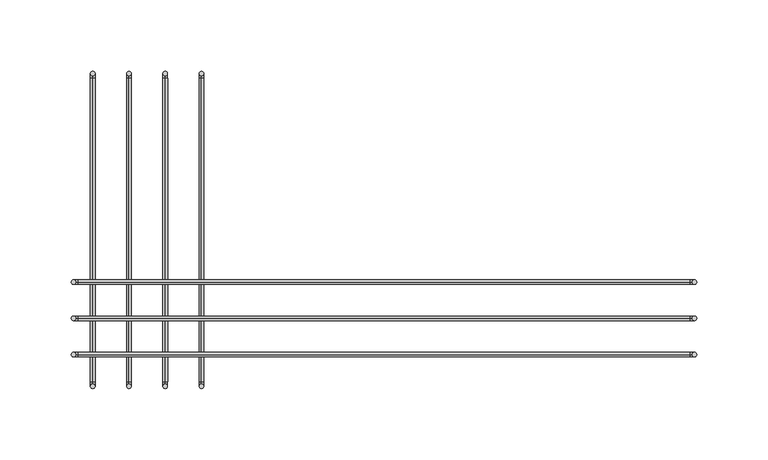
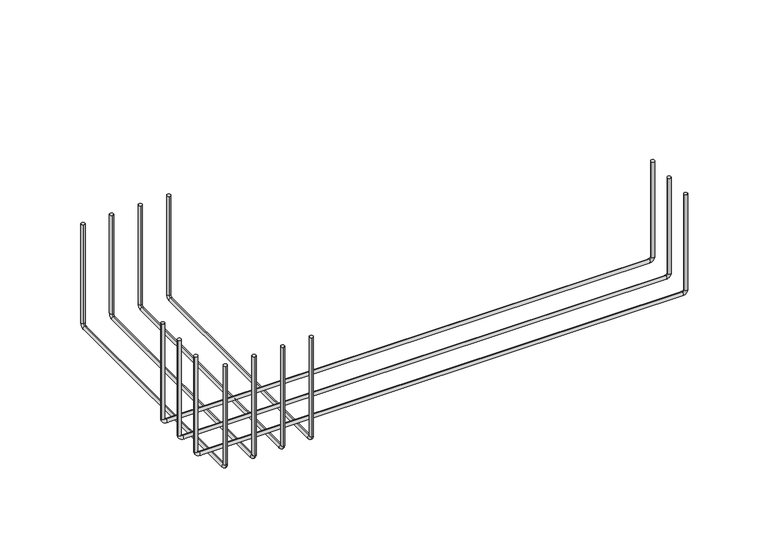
"""IFC4 building model written with IfcOpenShell, lengths in millimetres: furniture geometry."""

from ifc_helpers import new_model, si_unit, point, frame, origin, place, context, project, spatial, circle_curve, ellipse_curve, trimmed, source, transform, mapped, element, save
from ifc_brep_helpers import plane_surface, cylinder_surface, revolved_surface, advanced_brep


def furniture_57f02d6f(model_context):
    return source(origin(), model_context, "Body", "AdvancedBrep", [
        advanced_brep(
        [(-127.88392, -152.3273724, 1249.3942846), (-127.88392, -149.1523724, 1249.3942846), (-127.88392, 69.9226276, 1249.3942846), (-127.88392, 66.7476276, 1249.3942846), (-127.88392, -152.3273724, 1156.525988), (-127.88392, -149.1523724, 1156.525988), (-127.88392, -147.5648724, 1154.938488), (-127.88392, -147.5648724, 1151.763488), (-127.88392, 65.1601276, 1151.763488), (-127.88392, 65.1601276, 1154.938488), (-127.88392, 66.7476276, 1156.525988), (-127.88392, 69.9226276, 1156.525988)],
        [
            (0, 1, circle_curve(frame((-127.88392, -150.7398724, 1249.3942846), z_axis=(0.0, 0.0, 1.0), x_axis=(1.0, 0.0, 0.0)), 1.5875)),
            (1, 0, circle_curve(frame((-127.88392, -150.7398724, 1249.3942846), z_axis=(0.0, 0.0, 1.0), x_axis=(1.0, 0.0, 0.0)), 1.5875)),
            (2, 3, circle_curve(frame((-127.88392, 68.3351276, 1249.3942846), z_axis=(0.0, 0.0, 1.0), x_axis=(1.0, 0.0, 0.0)), 1.5875)),
            (3, 2, circle_curve(frame((-127.88392, 68.3351276, 1249.3942846), z_axis=(0.0, 0.0, 1.0), x_axis=(1.0, 0.0, 0.0)), 1.5875)),
            (0, 4),
            (4, 5, circle_curve(frame((-127.88392, -150.7398724, 1156.525988), z_axis=(0.0, 0.0, 1.0), x_axis=(1.0, 0.0, 0.0)), 1.5875)),
            (5, 1),
            (5, 4, circle_curve(frame((-127.88392, -150.7398724, 1156.525988), z_axis=(0.0, 0.0, 1.0), x_axis=(1.0, 0.0, 0.0)), 1.5875)),
            (6, 7, circle_curve(frame((-127.88392, -147.5648724, 1153.350988), z_axis=(0.0, 1.0, 0.0), x_axis=(1.0, 0.0, 0.0)), 1.5875)),
            (7, 8),
            (8, 9, circle_curve(frame((-127.88392, 65.1601276, 1153.350988), z_axis=(0.0, -1.0, 0.0), x_axis=(1.0, 0.0, 0.0)), 1.5875)),
            (9, 6),
            (7, 6, circle_curve(frame((-127.88392, -147.5648724, 1153.350988), z_axis=(0.0, 1.0, 0.0), x_axis=(1.0, 0.0, 0.0)), 1.5875)),
            (9, 8, circle_curve(frame((-127.88392, 65.1601276, 1153.350988), z_axis=(0.0, -1.0, 0.0), x_axis=(1.0, 0.0, 0.0)), 1.5875)),
            (10, 11, circle_curve(frame((-127.88392, 68.3351276, 1156.525988), z_axis=(0.0, 0.0, 1.0), x_axis=(1.0, 0.0, 0.0)), 1.5875)),
            (11, 2),
            (3, 10),
            (11, 10, circle_curve(frame((-127.88392, 68.3351276, 1156.525988), z_axis=(0.0, 0.0, 1.0), x_axis=(1.0, 0.0, 0.0)), 1.5875)),
            (6, 5, circle_curve(frame((-127.88392, -147.5648724, 1156.525988), z_axis=(-1.0, 0.0, 0.0), x_axis=(0.0, -1.0, 0.0)), 1.5875)),
            (4, 7, circle_curve(frame((-127.88392, -147.5648724, 1156.525988), z_axis=(1.0, 0.0, 0.0), x_axis=(0.0, -1.0, 0.0)), 4.7625)),
            (10, 9, circle_curve(frame((-127.88392, 65.1601276, 1156.525988), z_axis=(-1.0, 0.0, 0.0), x_axis=(0.0, 0.0, -1.0)), 1.5875)),
            (8, 11, circle_curve(frame((-127.88392, 65.1601276, 1156.525988), z_axis=(1.0, 0.0, 0.0), x_axis=(0.0, 0.0, -1.0)), 4.7625)),
        ],
        [
            plane_surface(frame((-127.88392, -152.3273724, 1249.3942846), z_axis=(0.0, 0.0, 1.0), x_axis=(1.0, 0.0, 0.0))),
            plane_surface(frame((-127.88392, 69.9226276, 1249.3942846), z_axis=(0.0, 0.0, 1.0), x_axis=(1.0, 0.0, 0.0))),
            cylinder_surface(frame((-127.88392, -150.7398724, 1249.3942846), z_axis=(0.0, 0.0, 1.0), x_axis=(1.0, 0.0, 0.0)), 1.5875),
            cylinder_surface(frame((-127.88392, -147.5648724, 1153.350988), z_axis=(0.0, -1.0, 0.0), x_axis=(1.0, 0.0, 0.0)), 1.5875),
            cylinder_surface(frame((-127.88392, 68.3351276, 1156.525988), z_axis=(0.0, 0.0, -1.0), x_axis=(1.0, 0.0, 0.0)), 1.5875),
            revolved_surface(trimmed(ellipse_curve(frame((-127.88392, -150.7398724, 1156.525988), z_axis=(0.0, 0.0, 1.0), x_axis=(1.0, 0.0, 0.0)), 1.5875, 1.5875), [point((-127.88392, -152.3273724, 1156.525988))], [point((-127.88392, -149.1523724, 1156.525988))], True, "CARTESIAN"), (-127.88392, -147.5648724, 1156.525988), (1.0, 0.0, 0.0)),
            revolved_surface(trimmed(ellipse_curve(frame((-127.88392, -150.7398724, 1156.525988), z_axis=(0.0, 0.0, 1.0), x_axis=(1.0, 0.0, 0.0)), 1.5875, 1.5875), [point((-127.88392, -149.1523724, 1156.525988))], [point((-127.88392, -152.3273724, 1156.525988))], True, "CARTESIAN"), (-127.88392, -147.5648724, 1156.525988), (1.0, 0.0, 0.0)),
            revolved_surface(trimmed(ellipse_curve(frame((-127.88392, 65.1601276, 1153.350988), z_axis=(0.0, -1.0, 0.0), x_axis=(1.0, 0.0, 0.0)), 1.5875, 1.5875), [point((-127.88392, 65.1601276, 1151.763488))], [point((-127.88392, 65.1601276, 1154.938488))], True, "CARTESIAN"), (-127.88392, 65.1601276, 1156.525988), (1.0, 0.0, 0.0)),
            revolved_surface(trimmed(ellipse_curve(frame((-127.88392, 65.1601276, 1153.350988), z_axis=(0.0, -1.0, 0.0), x_axis=(1.0, 0.0, 0.0)), 1.5875, 1.5875), [point((-127.88392, 65.1601276, 1154.938488))], [point((-127.88392, 65.1601276, 1151.763488))], True, "CARTESIAN"), (-127.88392, 65.1601276, 1156.525988), (1.0, 0.0, 0.0)),
        ],
        [
            (0, [[1, 2]]),
            (1, [[3, 4]]),
            (2, [[-1, 5, 6, 7]]),
            (2, [[-2, -7, 8, -5]]),
            (3, [[9, 10, 11, 12]]),
            (3, [[13, -12, 14, -10]]),
            (4, [[15, 16, -4, 17]]),
            (4, [[18, -17, -3, -16]]),
            (5, [[19, -6, 20, -9]]),
            (6, [[-20, -8, -19, -13]]),
            (7, [[21, -11, 22, -15]]),
            (8, [[-22, -14, -21, -18]]),
        ],
    ),
        advanced_brep(
        [(-153.28392, -152.3273724, 1249.3942846), (-153.28392, -149.1523724, 1249.3942846), (-153.28392, 69.9226276, 1249.3942846), (-153.28392, 66.7476276, 1249.3942846), (-153.28392, -152.3273724, 1156.525988), (-153.28392, -149.1523724, 1156.525988), (-153.28392, -147.5648724, 1154.938488), (-153.28392, -147.5648724, 1151.763488), (-153.28392, 65.1601276, 1151.763488), (-153.28392, 65.1601276, 1154.938488), (-153.28392, 66.7476276, 1156.525988), (-153.28392, 69.9226276, 1156.525988)],
        [
            (0, 1, circle_curve(frame((-153.28392, -150.7398724, 1249.3942846), z_axis=(0.0, 0.0, 1.0), x_axis=(1.0, 0.0, 0.0)), 1.5875)),
            (1, 0, circle_curve(frame((-153.28392, -150.7398724, 1249.3942846), z_axis=(0.0, 0.0, 1.0), x_axis=(1.0, 0.0, 0.0)), 1.5875)),
            (2, 3, circle_curve(frame((-153.28392, 68.3351276, 1249.3942846), z_axis=(0.0, 0.0, 1.0), x_axis=(1.0, 0.0, 0.0)), 1.5875)),
            (3, 2, circle_curve(frame((-153.28392, 68.3351276, 1249.3942846), z_axis=(0.0, 0.0, 1.0), x_axis=(1.0, 0.0, 0.0)), 1.5875)),
            (0, 4),
            (4, 5, circle_curve(frame((-153.28392, -150.7398724, 1156.525988), z_axis=(0.0, 0.0, 1.0), x_axis=(1.0, 0.0, 0.0)), 1.5875)),
            (5, 1),
            (5, 4, circle_curve(frame((-153.28392, -150.7398724, 1156.525988), z_axis=(0.0, 0.0, 1.0), x_axis=(1.0, 0.0, 0.0)), 1.5875)),
            (6, 7, circle_curve(frame((-153.28392, -147.5648724, 1153.350988), z_axis=(0.0, 1.0, 0.0), x_axis=(1.0, 0.0, 0.0)), 1.5875)),
            (7, 8),
            (8, 9, circle_curve(frame((-153.28392, 65.1601276, 1153.350988), z_axis=(0.0, -1.0, 0.0), x_axis=(1.0, 0.0, 0.0)), 1.5875)),
            (9, 6),
            (7, 6, circle_curve(frame((-153.28392, -147.5648724, 1153.350988), z_axis=(0.0, 1.0, 0.0), x_axis=(1.0, 0.0, 0.0)), 1.5875)),
            (9, 8, circle_curve(frame((-153.28392, 65.1601276, 1153.350988), z_axis=(0.0, -1.0, 0.0), x_axis=(1.0, 0.0, 0.0)), 1.5875)),
            (10, 11, circle_curve(frame((-153.28392, 68.3351276, 1156.525988), z_axis=(0.0, 0.0, 1.0), x_axis=(1.0, 0.0, 0.0)), 1.5875)),
            (11, 2),
            (3, 10),
            (11, 10, circle_curve(frame((-153.28392, 68.3351276, 1156.525988), z_axis=(0.0, 0.0, 1.0), x_axis=(1.0, 0.0, 0.0)), 1.5875)),
            (6, 5, circle_curve(frame((-153.28392, -147.5648724, 1156.525988), z_axis=(-1.0, 0.0, 0.0), x_axis=(0.0, -1.0, 0.0)), 1.5875)),
            (4, 7, circle_curve(frame((-153.28392, -147.5648724, 1156.525988), z_axis=(1.0, 0.0, 0.0), x_axis=(0.0, -1.0, 0.0)), 4.7625)),
            (10, 9, circle_curve(frame((-153.28392, 65.1601276, 1156.525988), z_axis=(-1.0, 0.0, 0.0), x_axis=(0.0, 0.0, -1.0)), 1.5875)),
            (8, 11, circle_curve(frame((-153.28392, 65.1601276, 1156.525988), z_axis=(1.0, 0.0, 0.0), x_axis=(0.0, 0.0, -1.0)), 4.7625)),
        ],
        [
            plane_surface(frame((-153.28392, -152.3273724, 1249.3942846), z_axis=(0.0, 0.0, 1.0), x_axis=(1.0, 0.0, 0.0))),
            plane_surface(frame((-153.28392, 69.9226276, 1249.3942846), z_axis=(0.0, 0.0, 1.0), x_axis=(1.0, 0.0, 0.0))),
            cylinder_surface(frame((-153.28392, -150.7398724, 1249.3942846), z_axis=(0.0, 0.0, 1.0), x_axis=(1.0, 0.0, 0.0)), 1.5875),
            cylinder_surface(frame((-153.28392, -147.5648724, 1153.350988), z_axis=(0.0, -1.0, 0.0), x_axis=(1.0, 0.0, 0.0)), 1.5875),
            cylinder_surface(frame((-153.28392, 68.3351276, 1156.525988), z_axis=(0.0, 0.0, -1.0), x_axis=(1.0, 0.0, 0.0)), 1.5875),
            revolved_surface(trimmed(ellipse_curve(frame((-153.28392, -150.7398724, 1156.525988), z_axis=(0.0, 0.0, 1.0), x_axis=(1.0, 0.0, 0.0)), 1.5875, 1.5875), [point((-153.28392, -152.3273724, 1156.525988))], [point((-153.28392, -149.1523724, 1156.525988))], True, "CARTESIAN"), (-153.28392, -147.5648724, 1156.525988), (1.0, 0.0, 0.0)),
            revolved_surface(trimmed(ellipse_curve(frame((-153.28392, -150.7398724, 1156.525988), z_axis=(0.0, 0.0, 1.0), x_axis=(1.0, 0.0, 0.0)), 1.5875, 1.5875), [point((-153.28392, -149.1523724, 1156.525988))], [point((-153.28392, -152.3273724, 1156.525988))], True, "CARTESIAN"), (-153.28392, -147.5648724, 1156.525988), (1.0, 0.0, 0.0)),
            revolved_surface(trimmed(ellipse_curve(frame((-153.28392, 65.1601276, 1153.350988), z_axis=(0.0, -1.0, 0.0), x_axis=(1.0, 0.0, 0.0)), 1.5875, 1.5875), [point((-153.28392, 65.1601276, 1151.763488))], [point((-153.28392, 65.1601276, 1154.938488))], True, "CARTESIAN"), (-153.28392, 65.1601276, 1156.525988), (1.0, 0.0, 0.0)),
            revolved_surface(trimmed(ellipse_curve(frame((-153.28392, 65.1601276, 1153.350988), z_axis=(0.0, -1.0, 0.0), x_axis=(1.0, 0.0, 0.0)), 1.5875, 1.5875), [point((-153.28392, 65.1601276, 1154.938488))], [point((-153.28392, 65.1601276, 1151.763488))], True, "CARTESIAN"), (-153.28392, 65.1601276, 1156.525988), (1.0, 0.0, 0.0)),
        ],
        [
            (0, [[1, 2]]),
            (1, [[3, 4]]),
            (2, [[-1, 5, 6, 7]]),
            (2, [[-2, -7, 8, -5]]),
            (3, [[9, 10, 11, 12]]),
            (3, [[13, -12, 14, -10]]),
            (4, [[15, 16, -4, 17]]),
            (4, [[18, -17, -3, -16]]),
            (5, [[19, -6, 20, -9]]),
            (6, [[-20, -8, -19, -13]]),
            (7, [[21, -11, 22, -15]]),
            (8, [[-22, -14, -21, -18]]),
        ],
    ),
        advanced_brep(
        [(219.075, -77.7148724, 1249.3942846), (215.9, -77.7148724, 1249.3942846), (-219.075, -77.7148724, 1249.3942846), (-215.9, -77.7148724, 1249.3942846), (219.075, -77.7148724, 1159.700988), (215.9, -77.7148724, 1159.700988), (214.3125, -77.7148724, 1158.113488), (214.3125, -77.7148724, 1154.938488), (-214.3125, -77.7148724, 1154.938488), (-214.3125, -77.7148724, 1158.113488), (-215.9, -77.7148724, 1159.700988), (-219.075, -77.7148724, 1159.700988)],
        [
            (0, 1, circle_curve(frame((217.4875, -77.7148724, 1249.3942846), z_axis=(0.0, 0.0, 1.0), x_axis=(0.0, 1.0, 0.0)), 1.5875)),
            (1, 0, circle_curve(frame((217.4875, -77.7148724, 1249.3942846), z_axis=(0.0, 0.0, 1.0), x_axis=(0.0, 1.0, 0.0)), 1.5875)),
            (2, 3, circle_curve(frame((-217.4875, -77.7148724, 1249.3942846), z_axis=(0.0, 0.0, 1.0), x_axis=(0.0, 1.0, 0.0)), 1.5875)),
            (3, 2, circle_curve(frame((-217.4875, -77.7148724, 1249.3942846), z_axis=(0.0, 0.0, 1.0), x_axis=(0.0, 1.0, 0.0)), 1.5875)),
            (0, 4),
            (4, 5, circle_curve(frame((217.4875, -77.7148724, 1159.700988), z_axis=(0.0, 0.0, 1.0), x_axis=(0.0, 1.0, 0.0)), 1.5875)),
            (5, 1),
            (5, 4, circle_curve(frame((217.4875, -77.7148724, 1159.700988), z_axis=(0.0, 0.0, 1.0), x_axis=(0.0, 1.0, 0.0)), 1.5875)),
            (6, 7, circle_curve(frame((214.3125, -77.7148724, 1156.525988), z_axis=(-1.0, 0.0, 0.0), x_axis=(0.0, 1.0, 0.0)), 1.5875)),
            (7, 8),
            (8, 9, circle_curve(frame((-214.3125, -77.7148724, 1156.525988), z_axis=(1.0, 0.0, 0.0), x_axis=(0.0, 1.0, 0.0)), 1.5875)),
            (9, 6),
            (7, 6, circle_curve(frame((214.3125, -77.7148724, 1156.525988), z_axis=(-1.0, 0.0, 0.0), x_axis=(0.0, 1.0, 0.0)), 1.5875)),
            (9, 8, circle_curve(frame((-214.3125, -77.7148724, 1156.525988), z_axis=(1.0, 0.0, 0.0), x_axis=(0.0, 1.0, 0.0)), 1.5875)),
            (10, 11, circle_curve(frame((-217.4875, -77.7148724, 1159.700988), z_axis=(0.0, 0.0, 1.0), x_axis=(0.0, 1.0, 0.0)), 1.5875)),
            (11, 2),
            (3, 10),
            (11, 10, circle_curve(frame((-217.4875, -77.7148724, 1159.700988), z_axis=(0.0, 0.0, 1.0), x_axis=(0.0, 1.0, 0.0)), 1.5875)),
            (6, 5, circle_curve(frame((214.3125, -77.7148724, 1159.700988), z_axis=(0.0, -1.0, 0.0), x_axis=(1.0, 0.0, 0.0)), 1.5875)),
            (4, 7, circle_curve(frame((214.3125, -77.7148724, 1159.700988), z_axis=(0.0, 1.0, 0.0), x_axis=(1.0, 0.0, 0.0)), 4.7625)),
            (10, 9, circle_curve(frame((-214.3125, -77.7148724, 1159.700988), z_axis=(0.0, -1.0, 0.0), x_axis=(0.0, 0.0, -1.0)), 1.5875)),
            (8, 11, circle_curve(frame((-214.3125, -77.7148724, 1159.700988), z_axis=(0.0, 1.0, 0.0), x_axis=(0.0, 0.0, -1.0)), 4.7625)),
        ],
        [
            plane_surface(frame((219.075, -77.7148724, 1249.3942846), z_axis=(0.0, 0.0, 1.0), x_axis=(0.0, 1.0, 0.0))),
            plane_surface(frame((-219.075, -77.7148724, 1249.3942846), z_axis=(0.0, 0.0, 1.0), x_axis=(0.0, 1.0, 0.0))),
            cylinder_surface(frame((217.4875, -77.7148724, 1249.3942846), z_axis=(0.0, 0.0, 1.0), x_axis=(0.0, 1.0, 0.0)), 1.5875),
            cylinder_surface(frame((214.3125, -77.7148724, 1156.525988), z_axis=(1.0, 0.0, 0.0), x_axis=(0.0, 1.0, 0.0)), 1.5875),
            cylinder_surface(frame((-217.4875, -77.7148724, 1159.700988), z_axis=(0.0, 0.0, -1.0), x_axis=(0.0, 1.0, 0.0)), 1.5875),
            revolved_surface(trimmed(ellipse_curve(frame((217.4875, -77.7148724, 1159.700988), z_axis=(0.0, 0.0, 1.0), x_axis=(0.0, 1.0, 0.0)), 1.5875, 1.5875), [point((219.075, -77.7148724, 1159.700988))], [point((215.9, -77.7148724, 1159.700988))], True, "CARTESIAN"), (214.3125, -77.7148724, 1159.700988), (0.0, 1.0, 0.0)),
            revolved_surface(trimmed(ellipse_curve(frame((217.4875, -77.7148724, 1159.700988), z_axis=(0.0, 0.0, 1.0), x_axis=(0.0, 1.0, 0.0)), 1.5875, 1.5875), [point((215.9, -77.7148724, 1159.700988))], [point((219.075, -77.7148724, 1159.700988))], True, "CARTESIAN"), (214.3125, -77.7148724, 1159.700988), (0.0, 1.0, 0.0)),
            revolved_surface(trimmed(ellipse_curve(frame((-214.3125, -77.7148724, 1156.525988), z_axis=(1.0, 0.0, 0.0), x_axis=(0.0, 1.0, 0.0)), 1.5875, 1.5875), [point((-214.3125, -77.7148724, 1154.938488))], [point((-214.3125, -77.7148724, 1158.113488))], True, "CARTESIAN"), (-214.3125, -77.7148724, 1159.700988), (0.0, 1.0, 0.0)),
            revolved_surface(trimmed(ellipse_curve(frame((-214.3125, -77.7148724, 1156.525988), z_axis=(1.0, 0.0, 0.0), x_axis=(0.0, 1.0, 0.0)), 1.5875, 1.5875), [point((-214.3125, -77.7148724, 1158.113488))], [point((-214.3125, -77.7148724, 1154.938488))], True, "CARTESIAN"), (-214.3125, -77.7148724, 1159.700988), (0.0, 1.0, 0.0)),
        ],
        [
            (0, [[1, 2]]),
            (1, [[3, 4]]),
            (2, [[-1, 5, 6, 7]]),
            (2, [[-2, -7, 8, -5]]),
            (3, [[9, 10, 11, 12]]),
            (3, [[13, -12, 14, -10]]),
            (4, [[15, 16, -4, 17]]),
            (4, [[18, -17, -3, -16]]),
            (5, [[19, -6, 20, -9]]),
            (6, [[-20, -8, -19, -13]]),
            (7, [[21, -11, 22, -15]]),
            (8, [[-22, -14, -21, -18]]),
        ],
    ),
        advanced_brep(
        [(219.075, -103.1148724, 1249.3942846), (215.9, -103.1148724, 1249.3942846), (-219.075, -103.1148724, 1249.3942846), (-215.9, -103.1148724, 1249.3942846), (219.075, -103.1148724, 1159.700988), (215.9, -103.1148724, 1159.700988), (214.3125, -103.1148724, 1158.113488), (214.3125, -103.1148724, 1154.938488), (-214.3125, -103.1148724, 1154.938488), (-214.3125, -103.1148724, 1158.113488), (-215.9, -103.1148724, 1159.700988), (-219.075, -103.1148724, 1159.700988)],
        [
            (0, 1, circle_curve(frame((217.4875, -103.1148724, 1249.3942846), z_axis=(0.0, 0.0, 1.0), x_axis=(0.0, 1.0, 0.0)), 1.5875)),
            (1, 0, circle_curve(frame((217.4875, -103.1148724, 1249.3942846), z_axis=(0.0, 0.0, 1.0), x_axis=(0.0, 1.0, 0.0)), 1.5875)),
            (2, 3, circle_curve(frame((-217.4875, -103.1148724, 1249.3942846), z_axis=(0.0, 0.0, 1.0), x_axis=(0.0, 1.0, 0.0)), 1.5875)),
            (3, 2, circle_curve(frame((-217.4875, -103.1148724, 1249.3942846), z_axis=(0.0, 0.0, 1.0), x_axis=(0.0, 1.0, 0.0)), 1.5875)),
            (0, 4),
            (4, 5, circle_curve(frame((217.4875, -103.1148724, 1159.700988), z_axis=(0.0, 0.0, 1.0), x_axis=(0.0, 1.0, 0.0)), 1.5875)),
            (5, 1),
            (5, 4, circle_curve(frame((217.4875, -103.1148724, 1159.700988), z_axis=(0.0, 0.0, 1.0), x_axis=(0.0, 1.0, 0.0)), 1.5875)),
            (6, 7, circle_curve(frame((214.3125, -103.1148724, 1156.525988), z_axis=(-1.0, 0.0, 0.0), x_axis=(0.0, 1.0, 0.0)), 1.5875)),
            (7, 8),
            (8, 9, circle_curve(frame((-214.3125, -103.1148724, 1156.525988), z_axis=(1.0, 0.0, 0.0), x_axis=(0.0, 1.0, 0.0)), 1.5875)),
            (9, 6),
            (7, 6, circle_curve(frame((214.3125, -103.1148724, 1156.525988), z_axis=(-1.0, 0.0, 0.0), x_axis=(0.0, 1.0, 0.0)), 1.5875)),
            (9, 8, circle_curve(frame((-214.3125, -103.1148724, 1156.525988), z_axis=(1.0, 0.0, 0.0), x_axis=(0.0, 1.0, 0.0)), 1.5875)),
            (10, 11, circle_curve(frame((-217.4875, -103.1148724, 1159.700988), z_axis=(0.0, 0.0, 1.0), x_axis=(0.0, 1.0, 0.0)), 1.5875)),
            (11, 2),
            (3, 10),
            (11, 10, circle_curve(frame((-217.4875, -103.1148724, 1159.700988), z_axis=(0.0, 0.0, 1.0), x_axis=(0.0, 1.0, 0.0)), 1.5875)),
            (6, 5, circle_curve(frame((214.3125, -103.1148724, 1159.700988), z_axis=(0.0, -1.0, 0.0), x_axis=(1.0, 0.0, 0.0)), 1.5875)),
            (4, 7, circle_curve(frame((214.3125, -103.1148724, 1159.700988), z_axis=(0.0, 1.0, 0.0), x_axis=(1.0, 0.0, 0.0)), 4.7625)),
            (10, 9, circle_curve(frame((-214.3125, -103.1148724, 1159.700988), z_axis=(0.0, -1.0, 0.0), x_axis=(0.0, 0.0, -1.0)), 1.5875)),
            (8, 11, circle_curve(frame((-214.3125, -103.1148724, 1159.700988), z_axis=(0.0, 1.0, 0.0), x_axis=(0.0, 0.0, -1.0)), 4.7625)),
        ],
        [
            plane_surface(frame((219.075, -103.1148724, 1249.3942846), z_axis=(0.0, 0.0, 1.0), x_axis=(0.0, 1.0, 0.0))),
            plane_surface(frame((-219.075, -103.1148724, 1249.3942846), z_axis=(0.0, 0.0, 1.0), x_axis=(0.0, 1.0, 0.0))),
            cylinder_surface(frame((217.4875, -103.1148724, 1249.3942846), z_axis=(0.0, 0.0, 1.0), x_axis=(0.0, 1.0, 0.0)), 1.5875),
            cylinder_surface(frame((214.3125, -103.1148724, 1156.525988), z_axis=(1.0, 0.0, 0.0), x_axis=(0.0, 1.0, 0.0)), 1.5875),
            cylinder_surface(frame((-217.4875, -103.1148724, 1159.700988), z_axis=(0.0, 0.0, -1.0), x_axis=(0.0, 1.0, 0.0)), 1.5875),
            revolved_surface(trimmed(ellipse_curve(frame((217.4875, -103.1148724, 1159.700988), z_axis=(0.0, 0.0, 1.0), x_axis=(0.0, 1.0, 0.0)), 1.5875, 1.5875), [point((219.075, -103.1148724, 1159.700988))], [point((215.9, -103.1148724, 1159.700988))], True, "CARTESIAN"), (214.3125, -103.1148724, 1159.700988), (0.0, 1.0, 0.0)),
            revolved_surface(trimmed(ellipse_curve(frame((217.4875, -103.1148724, 1159.700988), z_axis=(0.0, 0.0, 1.0), x_axis=(0.0, 1.0, 0.0)), 1.5875, 1.5875), [point((215.9, -103.1148724, 1159.700988))], [point((219.075, -103.1148724, 1159.700988))], True, "CARTESIAN"), (214.3125, -103.1148724, 1159.700988), (0.0, 1.0, 0.0)),
            revolved_surface(trimmed(ellipse_curve(frame((-214.3125, -103.1148724, 1156.525988), z_axis=(1.0, 0.0, 0.0), x_axis=(0.0, 1.0, 0.0)), 1.5875, 1.5875), [point((-214.3125, -103.1148724, 1154.938488))], [point((-214.3125, -103.1148724, 1158.113488))], True, "CARTESIAN"), (-214.3125, -103.1148724, 1159.700988), (0.0, 1.0, 0.0)),
            revolved_surface(trimmed(ellipse_curve(frame((-214.3125, -103.1148724, 1156.525988), z_axis=(1.0, 0.0, 0.0), x_axis=(0.0, 1.0, 0.0)), 1.5875, 1.5875), [point((-214.3125, -103.1148724, 1158.113488))], [point((-214.3125, -103.1148724, 1154.938488))], True, "CARTESIAN"), (-214.3125, -103.1148724, 1159.700988), (0.0, 1.0, 0.0)),
        ],
        [
            (0, [[1, 2]]),
            (1, [[3, 4]]),
            (2, [[-1, 5, 6, 7]]),
            (2, [[-2, -7, 8, -5]]),
            (3, [[9, 10, 11, 12]]),
            (3, [[13, -12, 14, -10]]),
            (4, [[15, 16, -4, 17]]),
            (4, [[18, -17, -3, -16]]),
            (5, [[19, -6, 20, -9]]),
            (6, [[-20, -8, -19, -13]]),
            (7, [[21, -11, 22, -15]]),
            (8, [[-22, -14, -21, -18]]),
        ],
    ),
        advanced_brep(
        [(219.075, -128.5148724, 1249.3942846), (215.9, -128.5148724, 1249.3942846), (-219.075, -128.5148724, 1249.3942846), (-215.9, -128.5148724, 1249.3942846), (219.075, -128.5148724, 1159.700988), (215.9, -128.5148724, 1159.700988), (214.3125, -128.5148724, 1158.113488), (214.3125, -128.5148724, 1154.938488), (-214.3125, -128.5148724, 1154.938488), (-214.3125, -128.5148724, 1158.113488), (-215.9, -128.5148724, 1159.700988), (-219.075, -128.5148724, 1159.700988)],
        [
            (0, 1, circle_curve(frame((217.4875, -128.5148724, 1249.3942846), z_axis=(0.0, 0.0, 1.0), x_axis=(0.0, 1.0, 0.0)), 1.5875)),
            (1, 0, circle_curve(frame((217.4875, -128.5148724, 1249.3942846), z_axis=(0.0, 0.0, 1.0), x_axis=(0.0, 1.0, 0.0)), 1.5875)),
            (2, 3, circle_curve(frame((-217.4875, -128.5148724, 1249.3942846), z_axis=(0.0, 0.0, 1.0), x_axis=(0.0, 1.0, 0.0)), 1.5875)),
            (3, 2, circle_curve(frame((-217.4875, -128.5148724, 1249.3942846), z_axis=(0.0, 0.0, 1.0), x_axis=(0.0, 1.0, 0.0)), 1.5875)),
            (0, 4),
            (4, 5, circle_curve(frame((217.4875, -128.5148724, 1159.700988), z_axis=(0.0, 0.0, 1.0), x_axis=(0.0, 1.0, 0.0)), 1.5875)),
            (5, 1),
            (5, 4, circle_curve(frame((217.4875, -128.5148724, 1159.700988), z_axis=(0.0, 0.0, 1.0), x_axis=(0.0, 1.0, 0.0)), 1.5875)),
            (6, 7, circle_curve(frame((214.3125, -128.5148724, 1156.525988), z_axis=(-1.0, 0.0, 0.0), x_axis=(0.0, 1.0, 0.0)), 1.5875)),
            (7, 8),
            (8, 9, circle_curve(frame((-214.3125, -128.5148724, 1156.525988), z_axis=(1.0, 0.0, 0.0), x_axis=(0.0, 1.0, 0.0)), 1.5875)),
            (9, 6),
            (7, 6, circle_curve(frame((214.3125, -128.5148724, 1156.525988), z_axis=(-1.0, 0.0, 0.0), x_axis=(0.0, 1.0, 0.0)), 1.5875)),
            (9, 8, circle_curve(frame((-214.3125, -128.5148724, 1156.525988), z_axis=(1.0, 0.0, 0.0), x_axis=(0.0, 1.0, 0.0)), 1.5875)),
            (10, 11, circle_curve(frame((-217.4875, -128.5148724, 1159.700988), z_axis=(0.0, 0.0, 1.0), x_axis=(0.0, 1.0, 0.0)), 1.5875)),
            (11, 2),
            (3, 10),
            (11, 10, circle_curve(frame((-217.4875, -128.5148724, 1159.700988), z_axis=(0.0, 0.0, 1.0), x_axis=(0.0, 1.0, 0.0)), 1.5875)),
            (6, 5, circle_curve(frame((214.3125, -128.5148724, 1159.700988), z_axis=(0.0, -1.0, 0.0), x_axis=(1.0, 0.0, 0.0)), 1.5875)),
            (4, 7, circle_curve(frame((214.3125, -128.5148724, 1159.700988), z_axis=(0.0, 1.0, 0.0), x_axis=(1.0, 0.0, 0.0)), 4.7625)),
            (10, 9, circle_curve(frame((-214.3125, -128.5148724, 1159.700988), z_axis=(0.0, -1.0, 0.0), x_axis=(0.0, 0.0, -1.0)), 1.5875)),
            (8, 11, circle_curve(frame((-214.3125, -128.5148724, 1159.700988), z_axis=(0.0, 1.0, 0.0), x_axis=(0.0, 0.0, -1.0)), 4.7625)),
        ],
        [
            plane_surface(frame((219.075, -128.5148724, 1249.3942846), z_axis=(0.0, 0.0, 1.0), x_axis=(0.0, 1.0, 0.0))),
            plane_surface(frame((-219.075, -128.5148724, 1249.3942846), z_axis=(0.0, 0.0, 1.0), x_axis=(0.0, 1.0, 0.0))),
            cylinder_surface(frame((217.4875, -128.5148724, 1249.3942846), z_axis=(0.0, 0.0, 1.0), x_axis=(0.0, 1.0, 0.0)), 1.5875),
            cylinder_surface(frame((214.3125, -128.5148724, 1156.525988), z_axis=(1.0, 0.0, 0.0), x_axis=(0.0, 1.0, 0.0)), 1.5875),
            cylinder_surface(frame((-217.4875, -128.5148724, 1159.700988), z_axis=(0.0, 0.0, -1.0), x_axis=(0.0, 1.0, 0.0)), 1.5875),
            revolved_surface(trimmed(ellipse_curve(frame((217.4875, -128.5148724, 1159.700988), z_axis=(0.0, 0.0, 1.0), x_axis=(0.0, 1.0, 0.0)), 1.5875, 1.5875), [point((219.075, -128.5148724, 1159.700988))], [point((215.9, -128.5148724, 1159.700988))], True, "CARTESIAN"), (214.3125, -128.5148724, 1159.700988), (0.0, 1.0, 0.0)),
            revolved_surface(trimmed(ellipse_curve(frame((217.4875, -128.5148724, 1159.700988), z_axis=(0.0, 0.0, 1.0), x_axis=(0.0, 1.0, 0.0)), 1.5875, 1.5875), [point((215.9, -128.5148724, 1159.700988))], [point((219.075, -128.5148724, 1159.700988))], True, "CARTESIAN"), (214.3125, -128.5148724, 1159.700988), (0.0, 1.0, 0.0)),
            revolved_surface(trimmed(ellipse_curve(frame((-214.3125, -128.5148724, 1156.525988), z_axis=(1.0, 0.0, 0.0), x_axis=(0.0, 1.0, 0.0)), 1.5875, 1.5875), [point((-214.3125, -128.5148724, 1154.938488))], [point((-214.3125, -128.5148724, 1158.113488))], True, "CARTESIAN"), (-214.3125, -128.5148724, 1159.700988), (0.0, 1.0, 0.0)),
            revolved_surface(trimmed(ellipse_curve(frame((-214.3125, -128.5148724, 1156.525988), z_axis=(1.0, 0.0, 0.0), x_axis=(0.0, 1.0, 0.0)), 1.5875, 1.5875), [point((-214.3125, -128.5148724, 1158.113488))], [point((-214.3125, -128.5148724, 1154.938488))], True, "CARTESIAN"), (-214.3125, -128.5148724, 1159.700988), (0.0, 1.0, 0.0)),
        ],
        [
            (0, [[1, 2]]),
            (1, [[3, 4]]),
            (2, [[-1, 5, 6, 7]]),
            (2, [[-2, -7, 8, -5]]),
            (3, [[9, 10, 11, 12]]),
            (3, [[13, -12, 14, -10]]),
            (4, [[15, 16, -4, 17]]),
            (4, [[18, -17, -3, -16]]),
            (5, [[19, -6, 20, -9]]),
            (6, [[-20, -8, -19, -13]]),
            (7, [[21, -11, 22, -15]]),
            (8, [[-22, -14, -21, -18]]),
        ],
    ),
        advanced_brep(
        [(-178.68392, -152.3273724, 1249.3942846), (-178.68392, -149.1523724, 1249.3942846), (-178.68392, 69.9226276, 1249.3942846), (-178.68392, 66.7476276, 1249.3942846), (-178.68392, -152.3273724, 1156.525988), (-178.68392, -149.1523724, 1156.525988), (-178.68392, -147.5648724, 1154.938488), (-178.68392, -147.5648724, 1151.763488), (-178.68392, 65.1601276, 1151.763488), (-178.68392, 65.1601276, 1154.938488), (-178.68392, 66.7476276, 1156.525988), (-178.68392, 69.9226276, 1156.525988)],
        [
            (0, 1, circle_curve(frame((-178.68392, -150.7398724, 1249.3942846), z_axis=(0.0, 0.0, 1.0), x_axis=(1.0, 0.0, 0.0)), 1.5875)),
            (1, 0, circle_curve(frame((-178.68392, -150.7398724, 1249.3942846), z_axis=(0.0, 0.0, 1.0), x_axis=(1.0, 0.0, 0.0)), 1.5875)),
            (2, 3, circle_curve(frame((-178.68392, 68.3351276, 1249.3942846), z_axis=(0.0, 0.0, 1.0), x_axis=(1.0, 0.0, 0.0)), 1.5875)),
            (3, 2, circle_curve(frame((-178.68392, 68.3351276, 1249.3942846), z_axis=(0.0, 0.0, 1.0), x_axis=(1.0, 0.0, 0.0)), 1.5875)),
            (0, 4),
            (4, 5, circle_curve(frame((-178.68392, -150.7398724, 1156.525988), z_axis=(0.0, 0.0, 1.0), x_axis=(1.0, 0.0, 0.0)), 1.5875)),
            (5, 1),
            (5, 4, circle_curve(frame((-178.68392, -150.7398724, 1156.525988), z_axis=(0.0, 0.0, 1.0), x_axis=(1.0, 0.0, 0.0)), 1.5875)),
            (6, 7, circle_curve(frame((-178.68392, -147.5648724, 1153.350988), z_axis=(0.0, 1.0, 0.0), x_axis=(1.0, 0.0, 0.0)), 1.5875)),
            (7, 8),
            (8, 9, circle_curve(frame((-178.68392, 65.1601276, 1153.350988), z_axis=(0.0, -1.0, 0.0), x_axis=(1.0, 0.0, 0.0)), 1.5875)),
            (9, 6),
            (7, 6, circle_curve(frame((-178.68392, -147.5648724, 1153.350988), z_axis=(0.0, 1.0, 0.0), x_axis=(1.0, 0.0, 0.0)), 1.5875)),
            (9, 8, circle_curve(frame((-178.68392, 65.1601276, 1153.350988), z_axis=(0.0, -1.0, 0.0), x_axis=(1.0, 0.0, 0.0)), 1.5875)),
            (10, 11, circle_curve(frame((-178.68392, 68.3351276, 1156.525988), z_axis=(0.0, 0.0, 1.0), x_axis=(1.0, 0.0, 0.0)), 1.5875)),
            (11, 2),
            (3, 10),
            (11, 10, circle_curve(frame((-178.68392, 68.3351276, 1156.525988), z_axis=(0.0, 0.0, 1.0), x_axis=(1.0, 0.0, 0.0)), 1.5875)),
            (6, 5, circle_curve(frame((-178.68392, -147.5648724, 1156.525988), z_axis=(-1.0, 0.0, 0.0), x_axis=(0.0, -1.0, 0.0)), 1.5875)),
            (4, 7, circle_curve(frame((-178.68392, -147.5648724, 1156.525988), z_axis=(1.0, 0.0, 0.0), x_axis=(0.0, -1.0, 0.0)), 4.7625)),
            (10, 9, circle_curve(frame((-178.68392, 65.1601276, 1156.525988), z_axis=(-1.0, 0.0, 0.0), x_axis=(0.0, 0.0, -1.0)), 1.5875)),
            (8, 11, circle_curve(frame((-178.68392, 65.1601276, 1156.525988), z_axis=(1.0, 0.0, 0.0), x_axis=(0.0, 0.0, -1.0)), 4.7625)),
        ],
        [
            plane_surface(frame((-178.68392, -152.3273724, 1249.3942846), z_axis=(0.0, 0.0, 1.0), x_axis=(1.0, 0.0, 0.0))),
            plane_surface(frame((-178.68392, 69.9226276, 1249.3942846), z_axis=(0.0, 0.0, 1.0), x_axis=(1.0, 0.0, 0.0))),
            cylinder_surface(frame((-178.68392, -150.7398724, 1249.3942846), z_axis=(0.0, 0.0, 1.0), x_axis=(1.0, 0.0, 0.0)), 1.5875),
            cylinder_surface(frame((-178.68392, -147.5648724, 1153.350988), z_axis=(0.0, -1.0, 0.0), x_axis=(1.0, 0.0, 0.0)), 1.5875),
            cylinder_surface(frame((-178.68392, 68.3351276, 1156.525988), z_axis=(0.0, 0.0, -1.0), x_axis=(1.0, 0.0, 0.0)), 1.5875),
            revolved_surface(trimmed(ellipse_curve(frame((-178.68392, -150.7398724, 1156.525988), z_axis=(0.0, 0.0, 1.0), x_axis=(1.0, 0.0, 0.0)), 1.5875, 1.5875), [point((-178.68392, -152.3273724, 1156.525988))], [point((-178.68392, -149.1523724, 1156.525988))], True, "CARTESIAN"), (-178.68392, -147.5648724, 1156.525988), (1.0, 0.0, 0.0)),
            revolved_surface(trimmed(ellipse_curve(frame((-178.68392, -150.7398724, 1156.525988), z_axis=(0.0, 0.0, 1.0), x_axis=(1.0, 0.0, 0.0)), 1.5875, 1.5875), [point((-178.68392, -149.1523724, 1156.525988))], [point((-178.68392, -152.3273724, 1156.525988))], True, "CARTESIAN"), (-178.68392, -147.5648724, 1156.525988), (1.0, 0.0, 0.0)),
            revolved_surface(trimmed(ellipse_curve(frame((-178.68392, 65.1601276, 1153.350988), z_axis=(0.0, -1.0, 0.0), x_axis=(1.0, 0.0, 0.0)), 1.5875, 1.5875), [point((-178.68392, 65.1601276, 1151.763488))], [point((-178.68392, 65.1601276, 1154.938488))], True, "CARTESIAN"), (-178.68392, 65.1601276, 1156.525988), (1.0, 0.0, 0.0)),
            revolved_surface(trimmed(ellipse_curve(frame((-178.68392, 65.1601276, 1153.350988), z_axis=(0.0, -1.0, 0.0), x_axis=(1.0, 0.0, 0.0)), 1.5875, 1.5875), [point((-178.68392, 65.1601276, 1154.938488))], [point((-178.68392, 65.1601276, 1151.763488))], True, "CARTESIAN"), (-178.68392, 65.1601276, 1156.525988), (1.0, 0.0, 0.0)),
        ],
        [
            (0, [[1, 2]]),
            (1, [[3, 4]]),
            (2, [[-1, 5, 6, 7]]),
            (2, [[-2, -7, 8, -5]]),
            (3, [[9, 10, 11, 12]]),
            (3, [[13, -12, 14, -10]]),
            (4, [[15, 16, -4, 17]]),
            (4, [[18, -17, -3, -16]]),
            (5, [[19, -6, 20, -9]]),
            (6, [[-20, -8, -19, -13]]),
            (7, [[21, -11, 22, -15]]),
            (8, [[-22, -14, -21, -18]]),
        ],
    ),
        advanced_brep(
        [(-204.08392, -152.3273724, 1249.3942846), (-204.08392, -149.1523724, 1249.3942846), (-204.08392, 69.9226276, 1249.3942846), (-204.08392, 66.7476276, 1249.3942846), (-204.08392, -152.3273724, 1156.525988), (-204.08392, -149.1523724, 1156.525988), (-204.08392, -147.5648724, 1154.938488), (-204.08392, -147.5648724, 1151.763488), (-204.08392, 65.1601276, 1151.763488), (-204.08392, 65.1601276, 1154.938488), (-204.08392, 66.7476276, 1156.525988), (-204.08392, 69.9226276, 1156.525988)],
        [
            (0, 1, circle_curve(frame((-204.08392, -150.7398724, 1249.3942846), z_axis=(0.0, 0.0, 1.0), x_axis=(1.0, 0.0, 0.0)), 1.5875)),
            (1, 0, circle_curve(frame((-204.08392, -150.7398724, 1249.3942846), z_axis=(0.0, 0.0, 1.0), x_axis=(1.0, 0.0, 0.0)), 1.5875)),
            (2, 3, circle_curve(frame((-204.08392, 68.3351276, 1249.3942846), z_axis=(0.0, 0.0, 1.0), x_axis=(1.0, 0.0, 0.0)), 1.5875)),
            (3, 2, circle_curve(frame((-204.08392, 68.3351276, 1249.3942846), z_axis=(0.0, 0.0, 1.0), x_axis=(1.0, 0.0, 0.0)), 1.5875)),
            (0, 4),
            (4, 5, circle_curve(frame((-204.08392, -150.7398724, 1156.525988), z_axis=(0.0, 0.0, 1.0), x_axis=(1.0, 0.0, 0.0)), 1.5875)),
            (5, 1),
            (5, 4, circle_curve(frame((-204.08392, -150.7398724, 1156.525988), z_axis=(0.0, 0.0, 1.0), x_axis=(1.0, 0.0, 0.0)), 1.5875)),
            (6, 7, circle_curve(frame((-204.08392, -147.5648724, 1153.350988), z_axis=(0.0, 1.0, 0.0), x_axis=(1.0, 0.0, 0.0)), 1.5875)),
            (7, 8),
            (8, 9, circle_curve(frame((-204.08392, 65.1601276, 1153.350988), z_axis=(0.0, -1.0, 0.0), x_axis=(1.0, 0.0, 0.0)), 1.5875)),
            (9, 6),
            (7, 6, circle_curve(frame((-204.08392, -147.5648724, 1153.350988), z_axis=(0.0, 1.0, 0.0), x_axis=(1.0, 0.0, 0.0)), 1.5875)),
            (9, 8, circle_curve(frame((-204.08392, 65.1601276, 1153.350988), z_axis=(0.0, -1.0, 0.0), x_axis=(1.0, 0.0, 0.0)), 1.5875)),
            (10, 11, circle_curve(frame((-204.08392, 68.3351276, 1156.525988), z_axis=(0.0, 0.0, 1.0), x_axis=(1.0, 0.0, 0.0)), 1.5875)),
            (11, 2),
            (3, 10),
            (11, 10, circle_curve(frame((-204.08392, 68.3351276, 1156.525988), z_axis=(0.0, 0.0, 1.0), x_axis=(1.0, 0.0, 0.0)), 1.5875)),
            (6, 5, circle_curve(frame((-204.08392, -147.5648724, 1156.525988), z_axis=(-1.0, 0.0, 0.0), x_axis=(0.0, -1.0, 0.0)), 1.5875)),
            (4, 7, circle_curve(frame((-204.08392, -147.5648724, 1156.525988), z_axis=(1.0, 0.0, 0.0), x_axis=(0.0, -1.0, 0.0)), 4.7625)),
            (10, 9, circle_curve(frame((-204.08392, 65.1601276, 1156.525988), z_axis=(-1.0, 0.0, 0.0), x_axis=(0.0, 0.0, -1.0)), 1.5875)),
            (8, 11, circle_curve(frame((-204.08392, 65.1601276, 1156.525988), z_axis=(1.0, 0.0, 0.0), x_axis=(0.0, 0.0, -1.0)), 4.7625)),
        ],
        [
            plane_surface(frame((-204.08392, -152.3273724, 1249.3942846), z_axis=(0.0, 0.0, 1.0), x_axis=(1.0, 0.0, 0.0))),
            plane_surface(frame((-204.08392, 69.9226276, 1249.3942846), z_axis=(0.0, 0.0, 1.0), x_axis=(1.0, 0.0, 0.0))),
            cylinder_surface(frame((-204.08392, -150.7398724, 1249.3942846), z_axis=(0.0, 0.0, 1.0), x_axis=(1.0, 0.0, 0.0)), 1.5875),
            cylinder_surface(frame((-204.08392, -147.5648724, 1153.350988), z_axis=(0.0, -1.0, 0.0), x_axis=(1.0, 0.0, 0.0)), 1.5875),
            cylinder_surface(frame((-204.08392, 68.3351276, 1156.525988), z_axis=(0.0, 0.0, -1.0), x_axis=(1.0, 0.0, 0.0)), 1.5875),
            revolved_surface(trimmed(ellipse_curve(frame((-204.08392, -150.7398724, 1156.525988), z_axis=(0.0, 0.0, 1.0), x_axis=(1.0, 0.0, 0.0)), 1.5875, 1.5875), [point((-204.08392, -152.3273724, 1156.525988))], [point((-204.08392, -149.1523724, 1156.525988))], True, "CARTESIAN"), (-204.08392, -147.5648724, 1156.525988), (1.0, 0.0, 0.0)),
            revolved_surface(trimmed(ellipse_curve(frame((-204.08392, -150.7398724, 1156.525988), z_axis=(0.0, 0.0, 1.0), x_axis=(1.0, 0.0, 0.0)), 1.5875, 1.5875), [point((-204.08392, -149.1523724, 1156.525988))], [point((-204.08392, -152.3273724, 1156.525988))], True, "CARTESIAN"), (-204.08392, -147.5648724, 1156.525988), (1.0, 0.0, 0.0)),
            revolved_surface(trimmed(ellipse_curve(frame((-204.08392, 65.1601276, 1153.350988), z_axis=(0.0, -1.0, 0.0), x_axis=(1.0, 0.0, 0.0)), 1.5875, 1.5875), [point((-204.08392, 65.1601276, 1151.763488))], [point((-204.08392, 65.1601276, 1154.938488))], True, "CARTESIAN"), (-204.08392, 65.1601276, 1156.525988), (1.0, 0.0, 0.0)),
            revolved_surface(trimmed(ellipse_curve(frame((-204.08392, 65.1601276, 1153.350988), z_axis=(0.0, -1.0, 0.0), x_axis=(1.0, 0.0, 0.0)), 1.5875, 1.5875), [point((-204.08392, 65.1601276, 1154.938488))], [point((-204.08392, 65.1601276, 1151.763488))], True, "CARTESIAN"), (-204.08392, 65.1601276, 1156.525988), (1.0, 0.0, 0.0)),
        ],
        [
            (0, [[1, 2]]),
            (1, [[3, 4]]),
            (2, [[-1, 5, 6, 7]]),
            (2, [[-2, -7, 8, -5]]),
            (3, [[9, 10, 11, 12]]),
            (3, [[13, -12, 14, -10]]),
            (4, [[15, 16, -4, 17]]),
            (4, [[18, -17, -3, -16]]),
            (5, [[19, -6, 20, -9]]),
            (6, [[-20, -8, -19, -13]]),
            (7, [[21, -11, 22, -15]]),
            (8, [[-22, -14, -21, -18]]),
        ],
    ),
    ])


if __name__ == "__main__":
    model = new_model("IFC4")
    model_context = context("Model", 3, world=origin())
    ifc_project = project(units=[si_unit("LENGTHUNIT", "METRE", prefix="MILLI")], contexts=[model_context])
    site = spatial("IfcSite", under=ifc_project)
    building = spatial("IfcBuilding", under=site)
    placement = place(None, origin())
    furniture_shape = furniture_57f02d6f(model_context)
    element("IfcFurniture", 1, ObjectType="HermanMiller_Carts_CT720_SupplyBasket : 5\"H x 9\"D x 18\"W Supply Basket", at=placement, inside=building, context=model_context, shape_type="MappedRepresentation", body=[
        mapped(furniture_shape, transform((0.0, 0.0, 0.0), x_axis=(1.0, 0.0, 0.0), y_axis=(0.0, 1.0, 0.0), z_axis=(0.0, 0.0, 1.0))),
    ])
    save(model, "model.ifc")
